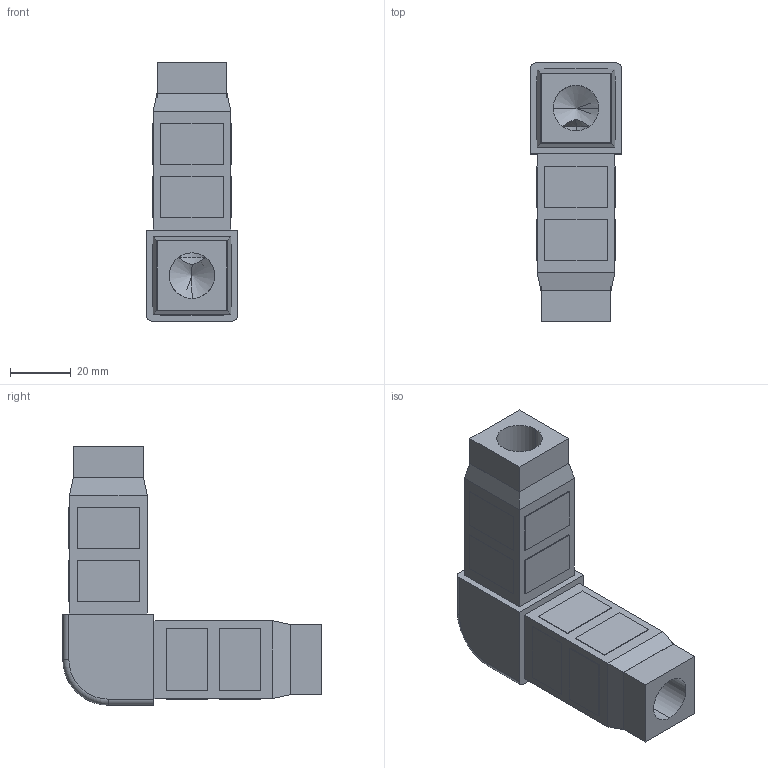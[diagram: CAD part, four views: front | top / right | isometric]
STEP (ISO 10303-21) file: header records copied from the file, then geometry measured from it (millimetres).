
FILE_DESCRIPTION (( 'STEP AP203' ), '1' );
FILE_NAME ('F030115.STEP', '2017-03-22T12:49:19', ( 'Localadmin' ), ( 'Microsoft' ), 'SwSTEP 2.0', 'SolidWorks 2016', '' );
FILE_SCHEMA (( 'CONFIG_CONTROL_DESIGN' ));
Length unit declared in the file: millimetre
Products named in the file (1): F030115
Bounding box: 30 x 85 x 85 mm (x, y, z)
Volume: 72027.3 mm3; surface area: 43803.9 mm2
Topology: 2 solids, 2 shells, 135 faces, 328 edges, 211 vertices
Faces by surface type: plane 118, cylinder 11, cone 4, torus 2
Entity records: 3948 total; most frequent: CARTESIAN_POINT 703, ORIENTED_EDGE 648, DIRECTION 617, EDGE_CURVE 324, VECTOR 295, LINE 295, VERTEX_POINT 211, AXIS2_PLACEMENT_3D 161
